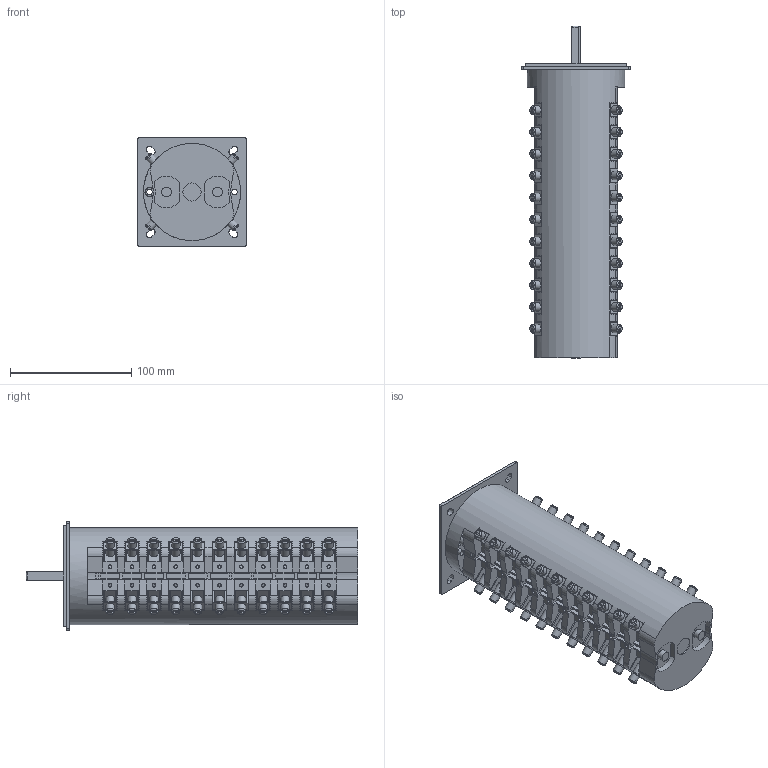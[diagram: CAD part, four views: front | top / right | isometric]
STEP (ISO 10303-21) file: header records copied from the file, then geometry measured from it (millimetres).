
FILE_DESCRIPTION(/* description */ (''),/* implementation_level */ '2;1');
FILE_NAME(/* name */ '4G80-U_11_korpusow.stp',/* time_stamp */ '2021-07-22T07:35:39+02:00',/* author */ (''),/* organization */ (''),/* preprocessor_version */ 'ST-DEVELOPER v18.1',/* originating_system */ 'SIEMENS PLM Software NX 1965',/* authorisation */ '');
FILE_SCHEMA (('AUTOMOTIVE_DESIGN { 1 0 10303 214 3 1 1 1 }'));
Products named in the file (1): 4G80-U_11_korpusow_stp
Bounding box: 89.2 x 273.25 x 89.2 mm (x, y, z)
Volume: 971257.2 mm3; surface area: 199328.3 mm2
Topology: 1 solids, 81 shells, 2086 faces, 5354 edges, 3574 vertices
Faces by surface type: plane 1524, cylinder 427, cone 132, bspline 3
Full cylindrical faces by diameter (mm): 2.5 x44, 4.5 x2, 7 x88, 7.5 x2, 8 x4, 8.5 x2, 11.6 x2, 12 x3, 15 x1, 80 x1
Entity records: 64432 total; most frequent: CARTESIAN_POINT 14732, ORIENTED_EDGE 10008, DIRECTION 10001, EDGE_CURVE 5004, LINE 3621, VECTOR 3621, VERTEX_POINT 3431, AXIS2_PLACEMENT_3D 3190
